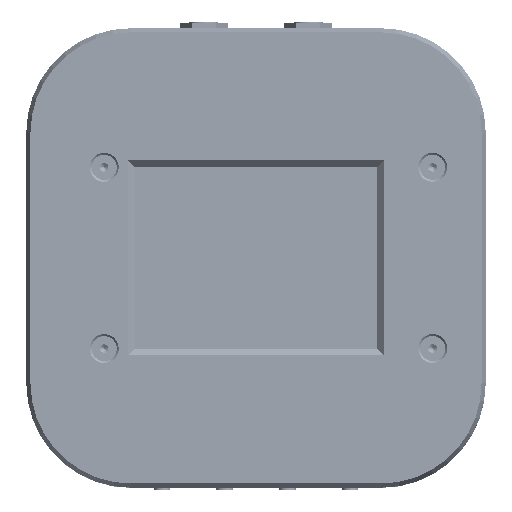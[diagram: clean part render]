
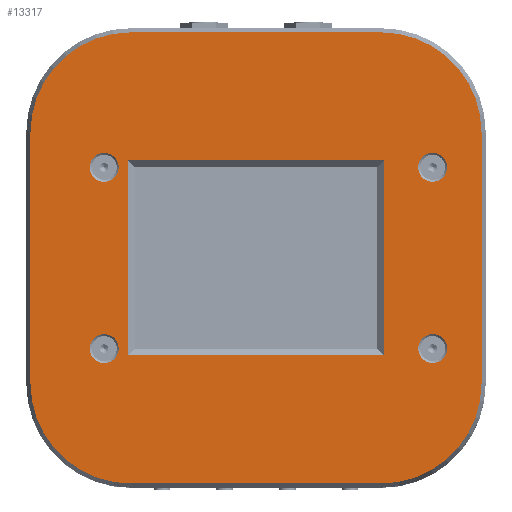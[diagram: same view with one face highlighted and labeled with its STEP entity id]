
A CAD part, top view. The second image highlights one B-rep face of the part: STEP entity #13317.
In plain terms, the highlighted planar face has unit normal (0, 0, 1) as drawn and (0, 0, -1) by its records, which use the part's own axes.
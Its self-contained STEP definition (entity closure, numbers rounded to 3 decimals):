
#6227=FACE_BOUND('',#29636,.T.);
#6228=FACE_BOUND('',#29637,.T.);
#6229=FACE_BOUND('',#29638,.T.);
#6230=FACE_BOUND('',#29639,.T.);
#6231=FACE_BOUND('',#29640,.T.);
#6232=FACE_BOUND('',#29641,.T.);
#8496=CIRCLE('',#118025,24.);
#8497=CIRCLE('',#118026,24.);
#8498=CIRCLE('',#118027,24.);
#8499=CIRCLE('',#118028,24.);
#8500=CIRCLE('',#118029,3.47);
#8501=CIRCLE('',#118030,3.47);
#8502=CIRCLE('',#118031,3.47);
#8503=CIRCLE('',#118032,3.47);
#13317=ADVANCED_FACE('',(#6227,#6228,#6229,#6230,#6231,#6232),#19876,.F.);
#19876=PLANE('',#118033);
#29636=EDGE_LOOP('',(#39841,#39842,#39843,#39844));
#29637=EDGE_LOOP('',(#39845,#39846,#39847,#39848,#39849,#39850,#39851,#39852));
#29638=EDGE_LOOP('',(#39853));
#29639=EDGE_LOOP('',(#39854));
#29640=EDGE_LOOP('',(#39855));
#29641=EDGE_LOOP('',(#39856));
#39841=ORIENTED_EDGE('',*,*,#81237,.T.);
#39842=ORIENTED_EDGE('',*,*,#81238,.T.);
#39843=ORIENTED_EDGE('',*,*,#81239,.T.);
#39844=ORIENTED_EDGE('',*,*,#81240,.T.);
#39845=ORIENTED_EDGE('',*,*,#81241,.T.);
#39846=ORIENTED_EDGE('',*,*,#81242,.T.);
#39847=ORIENTED_EDGE('',*,*,#81243,.T.);
#39848=ORIENTED_EDGE('',*,*,#81244,.T.);
#39849=ORIENTED_EDGE('',*,*,#81245,.T.);
#39850=ORIENTED_EDGE('',*,*,#81246,.T.);
#39851=ORIENTED_EDGE('',*,*,#81247,.T.);
#39852=ORIENTED_EDGE('',*,*,#81248,.T.);
#39853=ORIENTED_EDGE('',*,*,#81249,.T.);
#39854=ORIENTED_EDGE('',*,*,#81250,.T.);
#39855=ORIENTED_EDGE('',*,*,#81251,.T.);
#39856=ORIENTED_EDGE('',*,*,#81252,.T.);
#70254=VERTEX_POINT('',#165104);
#70255=VERTEX_POINT('',#165105);
#70256=VERTEX_POINT('',#165107);
#70257=VERTEX_POINT('',#165109);
#70258=VERTEX_POINT('',#165112);
#70259=VERTEX_POINT('',#165113);
#70260=VERTEX_POINT('',#165115);
#70261=VERTEX_POINT('',#165117);
#70262=VERTEX_POINT('',#165119);
#70263=VERTEX_POINT('',#165121);
#70264=VERTEX_POINT('',#165123);
#70265=VERTEX_POINT('',#165125);
#70266=VERTEX_POINT('',#165128);
#70267=VERTEX_POINT('',#165130);
#70268=VERTEX_POINT('',#165132);
#70269=VERTEX_POINT('',#165134);
#81237=EDGE_CURVE('',#70254,#70255,#96935,.T.);
#81238=EDGE_CURVE('',#70255,#70256,#96936,.T.);
#81239=EDGE_CURVE('',#70256,#70257,#96937,.T.);
#81240=EDGE_CURVE('',#70257,#70254,#96938,.T.);
#81241=EDGE_CURVE('',#70258,#70259,#8496,.T.);
#81242=EDGE_CURVE('',#70259,#70260,#96939,.T.);
#81243=EDGE_CURVE('',#70260,#70261,#8497,.T.);
#81244=EDGE_CURVE('',#70261,#70262,#96940,.T.);
#81245=EDGE_CURVE('',#70262,#70263,#8498,.T.);
#81246=EDGE_CURVE('',#70263,#70264,#96941,.T.);
#81247=EDGE_CURVE('',#70264,#70265,#8499,.T.);
#81248=EDGE_CURVE('',#70265,#70258,#96942,.T.);
#81249=EDGE_CURVE('',#70266,#70266,#8500,.T.);
#81250=EDGE_CURVE('',#70267,#70267,#8501,.T.);
#81251=EDGE_CURVE('',#70268,#70268,#8502,.T.);
#81252=EDGE_CURVE('',#70269,#70269,#8503,.T.);
#96935=LINE('',#165103,#107577);
#96936=LINE('',#165106,#107578);
#96937=LINE('',#165108,#107579);
#96938=LINE('',#165110,#107580);
#96939=LINE('',#165114,#107581);
#96940=LINE('',#165118,#107582);
#96941=LINE('',#165122,#107583);
#96942=LINE('',#165126,#107584);
#107577=VECTOR('',#131414,1.);
#107578=VECTOR('',#131415,1.);
#107579=VECTOR('',#131416,1.);
#107580=VECTOR('',#131417,1.);
#107581=VECTOR('',#131420,1.);
#107582=VECTOR('',#131423,1.);
#107583=VECTOR('',#131426,1.);
#107584=VECTOR('',#131429,1.);
#118025=AXIS2_PLACEMENT_3D('',#165111,#131418,#131419);
#118026=AXIS2_PLACEMENT_3D('',#165116,#131421,#131422);
#118027=AXIS2_PLACEMENT_3D('',#165120,#131424,#131425);
#118028=AXIS2_PLACEMENT_3D('',#165124,#131427,#131428);
#118029=AXIS2_PLACEMENT_3D('',#165127,#131430,#131431);
#118030=AXIS2_PLACEMENT_3D('',#165129,#131432,#131433);
#118031=AXIS2_PLACEMENT_3D('',#165131,#131434,#131435);
#118032=AXIS2_PLACEMENT_3D('',#165133,#131436,#131437);
#118033=AXIS2_PLACEMENT_3D('',#165135,#131438,#131439);
#131414=DIRECTION('',(0.,-1.,0.));
#131415=DIRECTION('',(1.,0.,0.));
#131416=DIRECTION('',(0.,1.,0.));
#131417=DIRECTION('',(-1.,0.,0.));
#131418=DIRECTION('',(0.,0.,-1.));
#131419=DIRECTION('',(1.,0.,0.));
#131420=DIRECTION('',(1.,0.,0.));
#131421=DIRECTION('',(0.,0.,-1.));
#131422=DIRECTION('',(1.,0.,0.));
#131423=DIRECTION('',(0.,-1.,0.));
#131424=DIRECTION('',(0.,0.,-1.));
#131425=DIRECTION('',(1.,0.,0.));
#131426=DIRECTION('',(-1.,0.,0.));
#131427=DIRECTION('',(0.,0.,-1.));
#131428=DIRECTION('',(1.,0.,0.));
#131429=DIRECTION('',(0.,1.,0.));
#131430=DIRECTION('',(0.,0.,1.));
#131431=DIRECTION('',(1.,0.,0.));
#131432=DIRECTION('',(0.,0.,1.));
#131433=DIRECTION('',(1.,0.,0.));
#131434=DIRECTION('',(0.,0.,1.));
#131435=DIRECTION('',(1.,0.,0.));
#131436=DIRECTION('',(0.,0.,1.));
#131437=DIRECTION('',(1.,0.,0.));
#131438=DIRECTION('',(0.,0.,1.));
#131439=DIRECTION('',(1.,0.,0.));
#165103=CARTESIAN_POINT('',(-30.6,-30.,0.));
#165104=CARTESIAN_POINT('',(-30.6,23.35,0.));
#165105=CARTESIAN_POINT('',(-30.6,-23.35,0.));
#165106=CARTESIAN_POINT('',(30.,-23.35,0.));
#165107=CARTESIAN_POINT('',(30.6,-23.35,0.));
#165108=CARTESIAN_POINT('',(30.6,-30.,0.));
#165109=CARTESIAN_POINT('',(30.6,23.35,0.));
#165110=CARTESIAN_POINT('',(30.,23.35,0.));
#165111=CARTESIAN_POINT('',(-30.,30.,0.));
#165112=CARTESIAN_POINT('',(-54.,30.,0.));
#165113=CARTESIAN_POINT('',(-30.,54.,0.));
#165114=CARTESIAN_POINT('',(30.,54.,0.));
#165115=CARTESIAN_POINT('',(30.,54.,0.));
#165116=CARTESIAN_POINT('',(30.,30.,0.));
#165117=CARTESIAN_POINT('',(54.,30.,0.));
#165118=CARTESIAN_POINT('',(54.,-30.,0.));
#165119=CARTESIAN_POINT('',(54.,-30.,0.));
#165120=CARTESIAN_POINT('',(30.,-30.,0.));
#165121=CARTESIAN_POINT('',(30.,-54.,0.));
#165122=CARTESIAN_POINT('',(30.,-54.,0.));
#165123=CARTESIAN_POINT('',(-30.,-54.,0.));
#165124=CARTESIAN_POINT('',(-30.,-30.,0.));
#165125=CARTESIAN_POINT('',(-54.,-30.,0.));
#165126=CARTESIAN_POINT('',(-54.,-30.,0.));
#165127=CARTESIAN_POINT('',(36.35,21.7,0.));
#165128=CARTESIAN_POINT('',(39.82,21.7,0.));
#165129=CARTESIAN_POINT('',(36.35,-21.7,0.));
#165130=CARTESIAN_POINT('',(39.82,-21.7,0.));
#165131=CARTESIAN_POINT('',(-42.3,21.7,0.));
#165132=CARTESIAN_POINT('',(-38.83,21.7,0.));
#165133=CARTESIAN_POINT('',(-42.3,-21.7,0.));
#165134=CARTESIAN_POINT('',(-38.83,-21.7,0.));
#165135=CARTESIAN_POINT('',(30.,-30.,0.));
